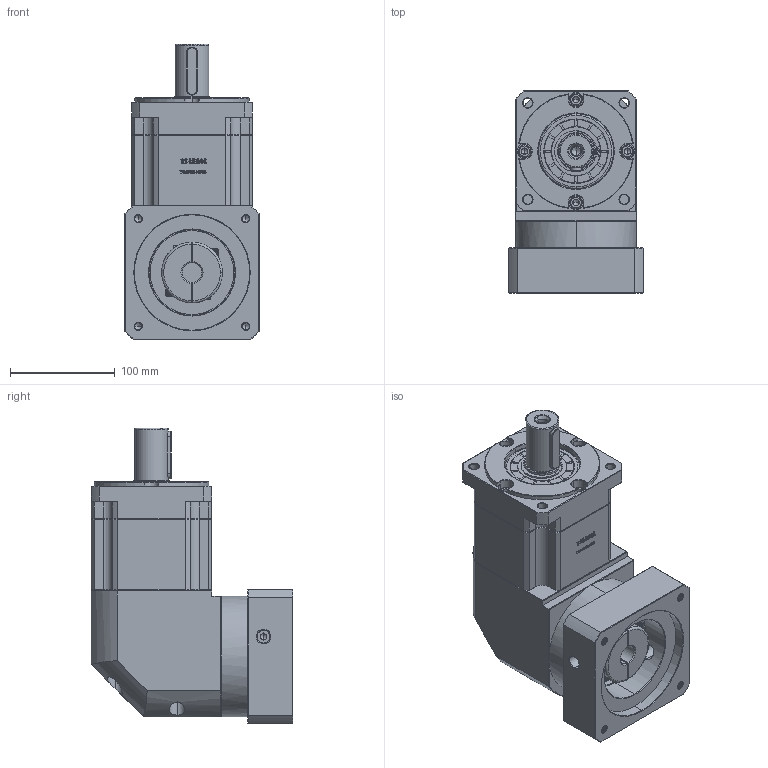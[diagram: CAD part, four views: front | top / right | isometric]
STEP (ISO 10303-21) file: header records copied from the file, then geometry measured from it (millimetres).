
FILE_DESCRIPTION (( 'STEP AP214' ), '1' );
FILE_NAME ('ZBR115A-D32-L2-19-110-145-M8.step', '2023-03-03T05:01:21', ( '' ), ( 'Microsoft' ), 'SwSTEP 2.0', 'SolidWorks 2016', '' );
FILE_SCHEMA (( 'AUTOMOTIVE_DESIGN' ));
Length unit declared in the file: millimetre
Products named in the file (1): ZBR115A-D32-L2-19-110-145-M8
Bounding box: 128 x 192.4 x 281.5 mm (x, y, z)
Volume: 3388230.4 mm3; surface area: 267601.5 mm2
Topology: 6 solids, 6 shells, 2982 faces, 7906 edges, 5070 vertices
Faces by surface type: plane 1559, bspline 607, cylinder 439, cone 369, torus 8
Entity records: 162027 total; most frequent: CARTESIAN_POINT 60115, ORIENTED_EDGE 15752, DIRECTION 11922, EDGE_CURVE 7876, VECTOR 5306, LINE 5306, VERTEX_POINT 5070, AXIS2_PLACEMENT_3D 3308
